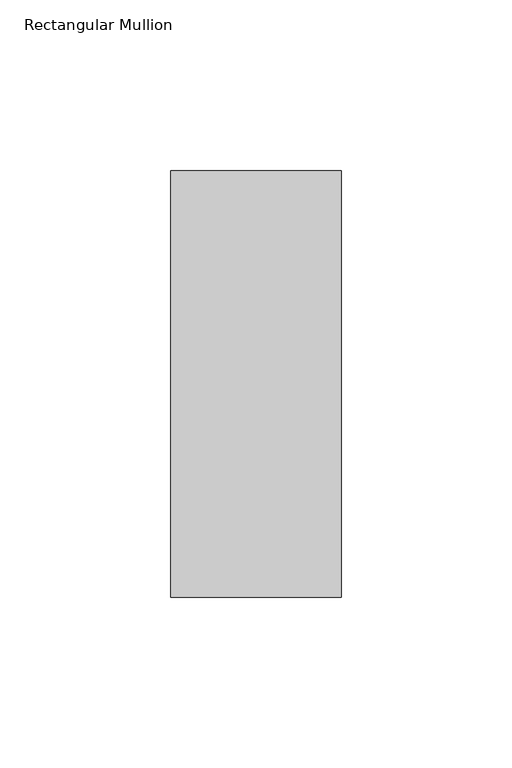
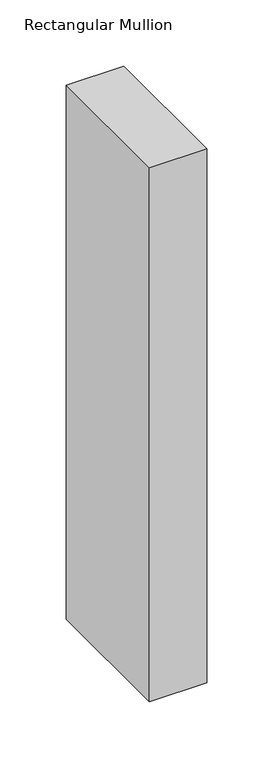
"""IFC4 building model written with IfcOpenShell, lengths in millimetres: member geometry, Rectangular Mullion : DucoSun Cubic Design profile 50x125 for louvre 500."""

from ifc_helpers import new_model, si_unit, frame, origin, place, context, project, spatial, polyline, outline, extrude, source, transform, mapped, element, save


def rectangular_mullion_56c25f51(model_context):
    return source(origin(), model_context, "Body", "SweptSolid", [
        extrude(outline(polyline([(-50.0, 187.5), (-50.0, 312.5), (0.0, 312.5), (0.0, 187.5), (-50.0, 187.5)])), frame((0.0, 0.0, -491.4999999), z_axis=(0.0, 0.0, 1.0), x_axis=(1.0, 0.0, 0.0)), (0.0, 0.0, 1.0), 491.4999999),
    ])


if __name__ == "__main__":
    model = new_model("IFC4")
    model_context = context("Model", 3, world=origin())
    ifc_project = project(units=[si_unit("LENGTHUNIT", "METRE", prefix="MILLI")], contexts=[model_context])
    site = spatial("IfcSite", under=ifc_project)
    building = spatial("IfcBuilding", under=site)
    placement = place(None, origin())
    rectangular_mullion_shape = rectangular_mullion_56c25f51(model_context)
    element("IfcMember", 1, ObjectType="Rectangular Mullion : DucoSun Cubic Design profile 50x125 for louvre 500", at=placement, inside=building, context=model_context, shape_type="MappedRepresentation", body=[
        mapped(rectangular_mullion_shape, transform((0.0, 0.0, 0.0), x_axis=(1.0, 0.0, 0.0), y_axis=(0.0, 1.0, 0.0), z_axis=(0.0, 0.0, 1.0))),
    ])
    save(model, "model.ifc")
